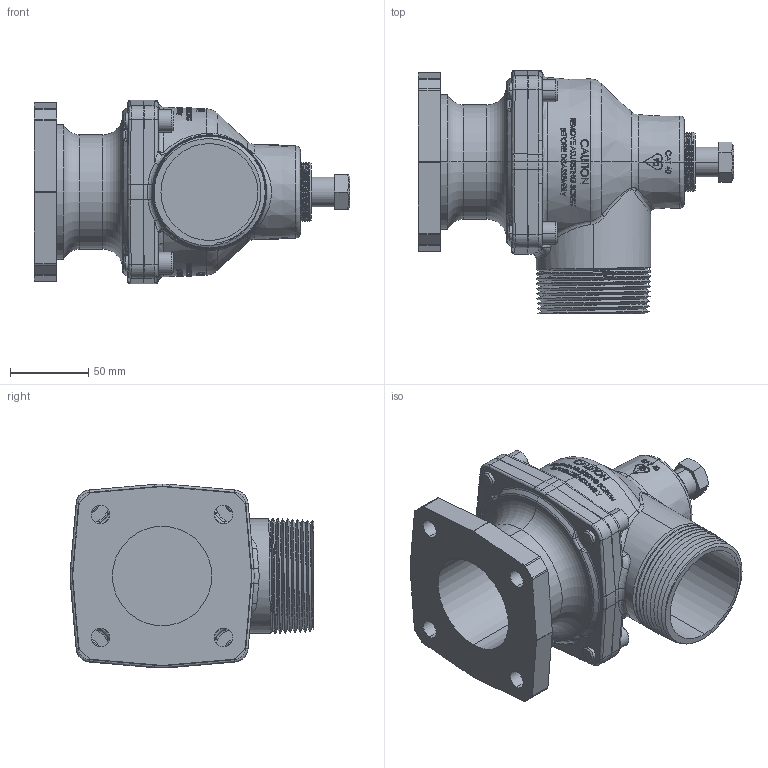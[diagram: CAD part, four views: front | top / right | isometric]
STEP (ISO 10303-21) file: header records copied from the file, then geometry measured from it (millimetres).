
FILE_DESCRIPTION (( 'STEP AP214' ), '1' );
FILE_NAME ('40-20.STEP', '2013-07-12T14:14:21', ( 'eb' ), ( '' ), 'SwSTEP 2.0', 'SolidWorks 2013', '' );
FILE_SCHEMA (( 'AUTOMOTIVE_DESIGN' ));
Length unit declared in the file: inch
Products named in the file (1): 40-20
Bounding box: 201.62 x 155.59 x 117.45 mm (x, y, z)
Volume: 1055010.9 mm3; surface area: 128816.3 mm2
Topology: 1 solids, 1 shells, 1713 faces, 4485 edges, 2927 vertices
Faces by surface type: bspline 1188, cone 205, plane 167, cylinder 89, torus 46, sphere 18
Entity records: 163171 total; most frequent: CARTESIAN_POINT 128720, ORIENTED_EDGE 8970, EDGE_CURVE 4485, DIRECTION 3172, VERTEX_POINT 2927, B_SPLINE_CURVE_WITH_KNOTS 2576, EDGE_LOOP 1874, ADVANCED_FACE 1713
